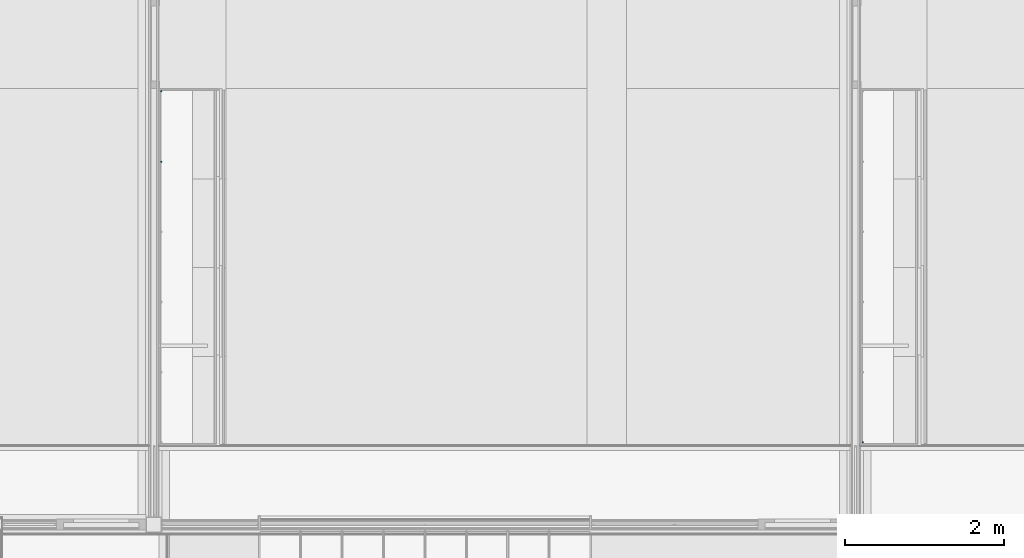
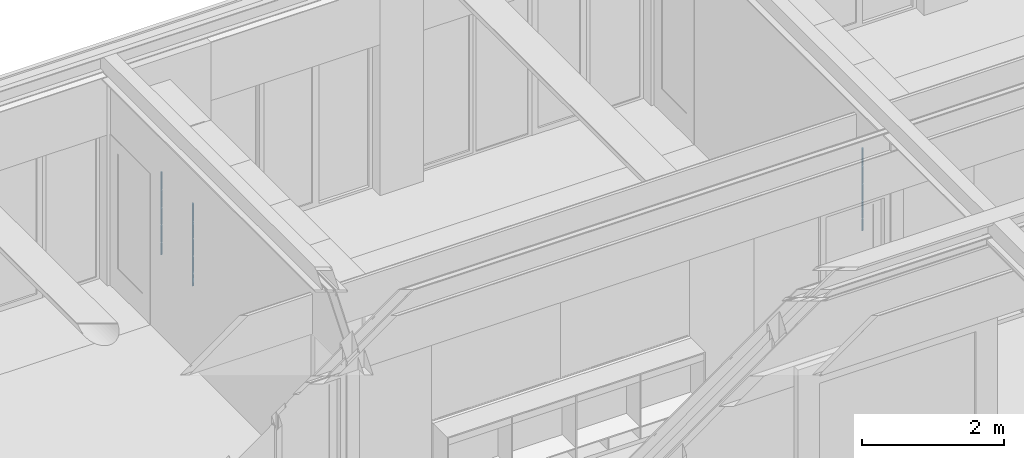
# One storey, part 5 of 165: 3 columns.
"""IFC2X3 building model written with IfcOpenShell, lengths in millimetres."""

import ifcopenshell
import ifcopenshell.guid

model = None  # the IFC model being written
_history = None  # IfcOwnerHistory: only IFC2X3 demands one
_inside = {}  # id of a spatial element -> (the spatial element, [elements in it])
_under = {}  # id of a project, library or spatial element -> (it, [spatial elements below it])
_declared = {}  # id of a project -> (the project, [libraries it declares])
_typed = {}  # id of a type object -> (the type object, [elements of that type])
_made_of = {}  # id of a material, layer set ... -> (it, [elements and type objects made of it])


def new_model(schema):
    """Start an empty IFC model of exactly this schema.

    Asked for "IFC4X3", IfcOpenShell would pick the latest addendum, in which some entities
    have other attributes; the version numbers below select the first issue.
    IFC2X3 requires an IfcOwnerHistory on every rooted entity: one is made here for all.
    """
    global model, _history
    if schema == "IFC4X3":
        model = ifcopenshell.file(schema_version=(4, 3, 0, 0))
    else:
        model = ifcopenshell.file(schema=schema)
    _inside.clear()
    _under.clear()
    _declared.clear()
    _typed.clear()
    _made_of.clear()
    _history = None
    if model.schema == "IFC2X3":
        org = make("IfcOrganization", Name="unknown")
        user = make(
            "IfcPersonAndOrganization",
            ThePerson=make("IfcPerson", FamilyName="unknown"),
            TheOrganization=org,
        )
        app = make(
            "IfcApplication",
            ApplicationDeveloper=org,
            Version="unknown",
            ApplicationFullName="unknown",
            ApplicationIdentifier="unknown",
        )
        _history = make(
            "IfcOwnerHistory",
            OwningUser=user,
            OwningApplication=app,
            ChangeAction="ADDED",
            CreationDate=0,
        )
    return model


def make(cls, **values):
    """One entity of the class cls with the attributes given. An attribute that is None is left unset."""
    return model.create_entity(
        cls, **{name: value for name, value in values.items() if value is not None}
    )


def entity(cls, *values):
    """Any entity or typed value of the class cls, its attributes in the order of the schema. None: left unset."""
    e = model.create_entity(cls)
    for i, value in enumerate(values):
        if value is not None:
            e[i] = value
    return e


def rooted(cls, **values):
    """An entity with a GlobalId (a new one), such as an element, a storey or a relation."""
    return make(cls, GlobalId=ifcopenshell.guid.new(), OwnerHistory=_history, **values)


def si_unit(unit_type, name, prefix=None):
    """IfcSIUnit, for example si_unit("LENGTHUNIT", "METRE", prefix="MILLI")."""
    return make("IfcSIUnit", UnitType=unit_type, Prefix=prefix, Name=name)


def converted_unit(unit_type, name, factor, base, dimensions=None, offset=None):
    """IfcConversionBasedUnit, such as the inch: factor (a typed value) times the base unit."""
    return make(
        "IfcConversionBasedUnit"
        if offset is None
        else "IfcConversionBasedUnitWithOffset",
        ConversionOffset=offset,
        Dimensions=None
        if dimensions is None
        else entity("IfcDimensionalExponents", *dimensions),
        UnitType=unit_type,
        Name=name,
        ConversionFactor=make(
            "IfcMeasureWithUnit", ValueComponent=factor, UnitComponent=base
        ),
    )


def derived_unit(unit_type, elements):
    """IfcDerivedUnit: a product of units, each with its exponent."""
    return make(
        "IfcDerivedUnit",
        Elements=[
            make("IfcDerivedUnitElement", Unit=unit, Exponent=power)
            for unit, power in elements
        ],
        UnitType=unit_type,
    )


def money_unit(currency):
    """IfcMonetaryUnit."""
    return make("IfcMonetaryUnit", Currency=currency)


def assignment(units):
    """IfcUnitAssignment: the units of a project."""
    return None if units is None else make("IfcUnitAssignment", Units=units)


def point(xyz):
    """IfcCartesianPoint."""
    return None if xyz is None else make("IfcCartesianPoint", Coordinates=xyz)


def direction(xyz):
    """IfcDirection."""
    return None if xyz is None else make("IfcDirection", DirectionRatios=xyz)


def frame(location, z_axis=None, x_axis=None):
    """IfcAxis2Placement3D, a coordinate frame: its origin and axes. An axis left out is left unset."""
    return make(
        "IfcAxis2Placement3D",
        Location=point(location),
        Axis=direction(z_axis),
        RefDirection=direction(x_axis),
    )


def origin_with_axes():
    """The frame at (0, 0, 0) with the z axis (0, 0, 1) and the x axis (1, 0, 0) written out."""
    return frame((0.0, 0.0, 0.0), z_axis=(0.0, 0.0, 1.0), x_axis=(1.0, 0.0, 0.0))


def place(relative_to, where):
    """IfcLocalPlacement: puts the frame where relative to a parent placement (None: the world)."""
    return make(
        "IfcLocalPlacement", PlacementRelTo=relative_to, RelativePlacement=where
    )


def context(
    kind, dimensions, precision=None, world=None, true_north=None, identifier=None
):
    """IfcGeometricRepresentationContext, for example the 3D "Model" context."""
    return make(
        "IfcGeometricRepresentationContext",
        ContextIdentifier=identifier,
        ContextType=kind,
        CoordinateSpaceDimension=dimensions,
        Precision=precision,
        WorldCoordinateSystem=world,
        TrueNorth=true_north,
    )


def subcontext(parent, identifier, kind, view, scale=None):
    """IfcGeometricRepresentationSubContext, for example "Body" below "Model"."""
    return make(
        "IfcGeometricRepresentationSubContext",
        ContextIdentifier=identifier,
        ContextType=kind,
        ParentContext=parent,
        TargetScale=scale,
        TargetView=view,
    )


def project(units=None, contexts=None):
    """IfcProject with its units and contexts."""
    return rooted(
        "IfcProject",
        Name="project",
        RepresentationContexts=contexts,
        UnitsInContext=assignment(units),
    )


def spatial(cls, under=None, at=None, **own):
    """A site, building, storey or space (cls), placed at a placement, below another one or the project."""
    s = rooted(cls, ObjectPlacement=at, **own)
    if under is not None:
        _under.setdefault(under.id(), (under, []))[1].append(s)
    return s


def faces_of(points, faces, orient=None, outer=None):
    """IfcFace entities. A face is a list of loops; a loop is a list of indices into points, from 0.

    orient and outer hold one flag for each loop. By default every Orientation is true, the
    first loop of a face is its IfcFaceOuterBound and the others are IfcFaceBound.
    """
    made = []
    for i, loops in enumerate(faces):
        bounds = []
        for j, loop in enumerate(loops):
            is_outer = j == 0 if outer is None else outer[i][j]
            bounds.append(
                make(
                    "IfcFaceOuterBound" if is_outer else "IfcFaceBound",
                    Bound=make("IfcPolyLoop", Polygon=[points[k] for k in loop]),
                    Orientation=True if orient is None else orient[i][j],
                )
            )
        made.append(make("IfcFace", Bounds=bounds))
    return made


def faceted_brep(points, faces, orient=None, outer=None, voids=None):
    """IfcFacetedBrep: a solid bounded by flat faces; with voids (closed shells), ...WithVoids."""
    shared = [point(p) for p in points]
    hull = make("IfcClosedShell", CfsFaces=faces_of(shared, faces, orient, outer))
    if voids is None:
        return make("IfcFacetedBrep", Outer=hull)
    return make(
        "IfcFacetedBrepWithVoids",
        Outer=hull,
        Voids=[
            make(cls, CfsFaces=faces_of(shared, fs, o, b)) for cls, fs, o, b in voids
        ],
    )


def shape(context_of_items, identifier, shape_type, items):
    """IfcShapeRepresentation: the items that make up one representation, for example the "Body"."""
    return make(
        "IfcShapeRepresentation",
        ContextOfItems=context_of_items,
        RepresentationIdentifier=identifier,
        RepresentationType=shape_type,
        Items=items,
    )


def material(Name=None, Category=None):
    """IfcMaterial."""
    return make("IfcMaterial", Name=Name, Category=Category)


def made_of(thing, what):
    """Note that an element or type object is made of a material, layer set ...; save() writes the relation."""
    if what is not None:
        _made_of.setdefault(what.id(), (what, []))[1].append(thing)
    return thing


def type_object(cls, material=None, **own):
    """A type object (cls), such as IfcWallType, which elements share."""
    return made_of(rooted(cls, **own), material)


def element(
    cls,
    number,
    at=None,
    inside=None,
    cuts=None,
    type_object=None,
    material=None,
    context=None,
    identifier="Body",
    shape_type=None,
    held_by="IfcProductDefinitionShape",
    body=None,
    shapes=None,
    **own,
):
    """One element of the class cls, such as IfcWall. Its Tag is "e" and its number.

    at: its placement. inside: the storey or other place that contains it. cuts: it is an
    opening in that element (IfcRelVoidsElement). A single representation is given by context,
    identifier, shape_type and body (its items); several are given by shapes. held_by: the class
    of the entity that holds the representations. save() writes the other relations.
    """
    e = rooted(cls, Tag="e%d" % number, ObjectPlacement=at, **own)
    if body is not None:
        shapes = [shape(context, identifier, shape_type, body)]
    if shapes is not None:
        e.Representation = make(held_by, Representations=shapes)
    if inside is not None:
        _inside.setdefault(inside.id(), (inside, []))[1].append(e)
    if cuts is not None:
        rooted(
            "IfcRelVoidsElement", RelatingBuildingElement=cuts, RelatedOpeningElement=e
        )
    if type_object is not None:
        _typed.setdefault(type_object.id(), (type_object, []))[1].append(e)
    return made_of(e, material)


def aggregate(whole, parts):
    """IfcRelAggregates: a whole, such as a stair, and the parts it consists of."""
    return rooted("IfcRelAggregates", RelatingObject=whole, RelatedObjects=parts)


def save(model, path):
    """Write the relations noted so far, then the file.

    IfcRelAggregates (storeys below a building ...), IfcRelContainedInSpatialStructure (elements
    in a storey), IfcRelDefinesByType, IfcRelAssociatesMaterial and IfcRelDeclares: one each for
    every whole, place, type object, material and project.
    """
    for whole, parts in _under.values():
        aggregate(whole, parts)
    for where, things in _inside.values():
        rooted(
            "IfcRelContainedInSpatialStructure",
            RelatedElements=things,
            RelatingStructure=where,
        )
    for kind, things in _typed.values():
        rooted("IfcRelDefinesByType", RelatedObjects=things, RelatingType=kind)
    for what, things in _made_of.values():
        rooted("IfcRelAssociatesMaterial", RelatedObjects=things, RelatingMaterial=what)
    for by, libraries in _declared.values():
        rooted("IfcRelDeclares", RelatingContext=by, RelatedDefinitions=libraries)
    model.write(path)


model = new_model("IFC2X3")

# Units and contexts
model_context = context("Model", 3, precision=0.01, world=origin_with_axes(), true_north=direction((0.0, 1.0)))
body_context = subcontext(model_context, "Body", "Model", "MODEL_VIEW")
ifc_project = project(units=[si_unit("LENGTHUNIT", "METRE", prefix="MILLI"), si_unit("AREAUNIT", "SQUARE_METRE"), si_unit("VOLUMEUNIT", "CUBIC_METRE"), converted_unit("PLANEANGLEUNIT", "DEGREE", entity("IfcPlaneAngleMeasure", 0.0174532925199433), si_unit("PLANEANGLEUNIT", "RADIAN"), dimensions=[0, 0, 0, 0, 0, 0, 0]), money_unit("EUR"), converted_unit("TIMEUNIT", "Year", entity("IfcTimeMeasure", 31556926.0), si_unit("TIMEUNIT", "SECOND"), dimensions=[0, 0, 1, 0, 0, 0, 0]), si_unit("MASSUNIT", "GRAM", prefix="KILO"), si_unit("THERMODYNAMICTEMPERATUREUNIT", "DEGREE_CELSIUS"), si_unit("LUMINOUSINTENSITYUNIT", "LUMEN"), si_unit("ENERGYUNIT", "JOULE", prefix="MEGA"), derived_unit("THERMALCONDUCTANCEUNIT", [(si_unit("POWERUNIT", "WATT"), 1), (si_unit("LENGTHUNIT", "METRE"), -1), (si_unit("THERMODYNAMICTEMPERATUREUNIT", "KELVIN"), -1)]), derived_unit("SPECIFICHEATCAPACITYUNIT", [(si_unit("ENERGYUNIT", "JOULE"), 1), (si_unit("MASSUNIT", "GRAM", prefix="KILO"), -1), (si_unit("THERMODYNAMICTEMPERATUREUNIT", "KELVIN"), -1)]), derived_unit("MASSDENSITYUNIT", [(si_unit("MASSUNIT", "GRAM", prefix="KILO"), 1), (si_unit("VOLUMEUNIT", "CUBIC_METRE"), -1)])], contexts=[model_context])

# Site, building, storey
site_placement = place(None, origin_with_axes())
site = spatial("IfcSite", under=ifc_project, at=site_placement, Name="Site", CompositionType="ELEMENT")
building_placement = place(site_placement, origin_with_axes())
building = spatial("IfcBuilding", under=site, at=building_placement, Name="Naam gebouw", CompositionType="ELEMENT")
storey_placement = place(building_placement, origin_with_axes())
storey = spatial("IfcBuildingStorey", under=building, at=storey_placement, Name="Begane grond", CompositionType="ELEMENT", Elevation=0.0)

# Columns
ifc_material = material(Name="ALG - ALGEMEEN")
column_type = type_object("IfcColumnType", Name="ALG - ALGEMEEN 20 x 20", PredefinedType="COLUMN")
column_1_placement = place(storey_placement, frame((17792.49942456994, 23362.99984707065, 1182.0), z_axis=(0.0, 0.0, 1.0), x_axis=(1.0, 0.0, 0.0)))
element("IfcColumn", 1, at=column_1_placement, inside=storey, type_object=column_type, material=ifc_material, Name="28_Kolom-x", ObjectType="COLUMN", context=body_context, shape_type="Brep", body=[
    faceted_brep([(-8.000000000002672, 9.99999999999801, 0.0), (-8.000000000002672, 9.99999999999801, 197.9999999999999), (9.99999999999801, 9.99999999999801, 197.9999999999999), (9.99999999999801, 9.99999999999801, 0.0), (-8.000000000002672, -10.00000000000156, 0.0), (-8.000000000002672, -10.00000000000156, 197.9999999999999), (9.99999999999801, -10.00000000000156, 197.9999999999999), (9.99999999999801, -10.00000000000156, 0.0)], [[[0, 1, 2, 3]], [[4, 5, 1, 0]], [[5, 6, 2, 1]], [[3, 2, 6, 7]], [[3, 7, 4, 0]], [[7, 6, 5, 4]]]),
    faceted_brep([(9.99999999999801, -10.00000000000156, 1418.0), (9.99999999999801, -10.00000000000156, 1118.0), (9.99999999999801, 9.99999999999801, 1118.0), (9.99999999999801, 9.99999999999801, 1418.0), (-8.000000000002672, -10.00000000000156, 1418.0), (-8.000000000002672, -10.00000000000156, 1118.0), (-8.000000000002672, 9.99999999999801, 1118.0), (-8.000000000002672, 9.99999999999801, 1418.0)], [[[0, 1, 2, 3]], [[4, 5, 1, 0]], [[5, 6, 2, 1]], [[3, 2, 6, 7]], [[0, 3, 7, 4]], [[7, 6, 5, 4]]]),
    faceted_brep([(9.99999999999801, -10.00000000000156, 1098.0), (9.99999999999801, -10.00000000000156, 818.0000000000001), (9.99999999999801, 9.99999999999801, 818.0000000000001), (9.99999999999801, 9.99999999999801, 1098.0), (-8.000000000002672, -10.00000000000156, 1098.0), (-8.000000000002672, -10.00000000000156, 818.0000000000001), (-8.000000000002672, 9.99999999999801, 818.0000000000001), (-8.000000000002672, 9.99999999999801, 1098.0)], [[[0, 1, 2, 3]], [[4, 5, 1, 0]], [[5, 6, 2, 1]], [[3, 2, 6, 7]], [[4, 0, 3, 7]], [[7, 6, 5, 4]]]),
    faceted_brep([(9.99999999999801, -10.00000000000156, 798.0), (9.99999999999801, -10.00000000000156, 518.0), (9.99999999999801, 9.99999999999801, 518.0), (9.99999999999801, 9.99999999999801, 798.0), (-8.000000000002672, -10.00000000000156, 798.0), (-8.000000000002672, -10.00000000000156, 518.0), (-8.000000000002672, 9.99999999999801, 518.0), (-8.000000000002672, 9.99999999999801, 798.0)], [[[0, 1, 2, 3]], [[4, 5, 1, 0]], [[5, 6, 2, 1]], [[3, 2, 6, 7]], [[4, 0, 3, 7]], [[7, 6, 5, 4]]]),
    faceted_brep([(9.99999999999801, -10.00000000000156, 498.0), (9.99999999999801, -10.00000000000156, 218.0), (9.99999999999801, 9.99999999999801, 218.0), (9.99999999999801, 9.99999999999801, 498.0), (-8.000000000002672, -10.00000000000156, 498.0), (-8.000000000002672, -10.00000000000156, 218.0), (-8.000000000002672, 9.99999999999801, 218.0), (-8.000000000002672, 9.99999999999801, 498.0)], [[[0, 1, 2, 3]], [[4, 5, 1, 0]], [[5, 6, 2, 1]], [[3, 2, 6, 7]], [[4, 0, 3, 7]], [[7, 6, 5, 4]]]),
])
column_2_placement = place(storey_placement, frame((8942.500000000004, 27792.99984707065, 1182.0), z_axis=(0.0, 0.0, 1.0), x_axis=(1.0, 0.0, 0.0)))
element("IfcColumn", 2, at=column_2_placement, inside=storey, type_object=column_type, material=ifc_material, Name="28_Kolom-x", ObjectType="COLUMN", context=body_context, shape_type="Brep", body=[
    faceted_brep([(-8.000000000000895, 9.99999999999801, 0.0), (-8.000000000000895, 9.99999999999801, 197.9999999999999), (9.999999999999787, 9.99999999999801, 197.9999999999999), (9.999999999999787, 9.99999999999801, 0.0), (-8.000000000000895, -10.00000000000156, 0.0), (-8.000000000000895, -10.00000000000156, 197.9999999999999), (9.999999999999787, -10.00000000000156, 197.9999999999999), (9.999999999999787, -10.00000000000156, 0.0)], [[[0, 1, 2, 3]], [[4, 5, 1, 0]], [[5, 6, 2, 1]], [[3, 2, 6, 7]], [[3, 7, 4, 0]], [[7, 6, 5, 4]]]),
    faceted_brep([(9.999999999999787, -10.00000000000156, 1418.0), (9.999999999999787, -10.00000000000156, 1118.0), (9.999999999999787, 9.99999999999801, 1118.0), (9.999999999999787, 9.99999999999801, 1418.0), (-8.000000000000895, -10.00000000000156, 1418.0), (-8.000000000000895, -10.00000000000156, 1118.0), (-8.000000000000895, 9.99999999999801, 1118.0), (-8.000000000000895, 9.99999999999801, 1418.0)], [[[0, 1, 2, 3]], [[4, 5, 1, 0]], [[5, 6, 2, 1]], [[3, 2, 6, 7]], [[0, 3, 7, 4]], [[7, 6, 5, 4]]]),
    faceted_brep([(9.999999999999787, -10.00000000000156, 1098.0), (9.999999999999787, -10.00000000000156, 818.0000000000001), (9.999999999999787, 9.99999999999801, 818.0000000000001), (9.999999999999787, 9.99999999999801, 1098.0), (-8.000000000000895, -10.00000000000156, 1098.0), (-8.000000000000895, -10.00000000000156, 818.0000000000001), (-8.000000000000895, 9.99999999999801, 818.0000000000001), (-8.000000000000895, 9.99999999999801, 1098.0)], [[[0, 1, 2, 3]], [[4, 5, 1, 0]], [[5, 6, 2, 1]], [[3, 2, 6, 7]], [[4, 0, 3, 7]], [[7, 6, 5, 4]]]),
    faceted_brep([(9.999999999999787, -10.00000000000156, 798.0), (9.999999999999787, -10.00000000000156, 518.0), (9.999999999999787, 9.99999999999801, 518.0), (9.999999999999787, 9.99999999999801, 798.0), (-8.000000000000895, -10.00000000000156, 798.0), (-8.000000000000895, -10.00000000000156, 518.0), (-8.000000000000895, 9.99999999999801, 518.0), (-8.000000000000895, 9.99999999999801, 798.0)], [[[0, 1, 2, 3]], [[4, 5, 1, 0]], [[5, 6, 2, 1]], [[3, 2, 6, 7]], [[4, 0, 3, 7]], [[7, 6, 5, 4]]]),
    faceted_brep([(9.999999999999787, -10.00000000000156, 498.0), (9.999999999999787, -10.00000000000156, 218.0), (9.999999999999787, 9.99999999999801, 218.0), (9.999999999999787, 9.99999999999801, 498.0), (-8.000000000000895, -10.00000000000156, 498.0), (-8.000000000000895, -10.00000000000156, 218.0), (-8.000000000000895, 9.99999999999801, 218.0), (-8.000000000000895, 9.99999999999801, 498.0)], [[[0, 1, 2, 3]], [[4, 5, 1, 0]], [[5, 6, 2, 1]], [[3, 2, 6, 7]], [[4, 0, 3, 7]], [[7, 6, 5, 4]]]),
])
column_3_placement = place(storey_placement, frame((8942.500000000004, 26906.99984707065, 1182.0), z_axis=(0.0, 0.0, 1.0), x_axis=(1.0, 0.0, 0.0)))
element("IfcColumn", 3, at=column_3_placement, inside=storey, type_object=column_type, material=ifc_material, Name="28_Kolom-x", ObjectType="COLUMN", context=body_context, shape_type="Brep", body=[
    faceted_brep([(-8.000000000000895, 9.99999999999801, 0.0), (-8.000000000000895, 9.99999999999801, 197.9999999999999), (9.999999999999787, 9.99999999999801, 197.9999999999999), (9.999999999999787, 9.99999999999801, 0.0), (-8.000000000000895, -10.00000000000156, 0.0), (-8.000000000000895, -10.00000000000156, 197.9999999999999), (9.999999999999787, -10.00000000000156, 197.9999999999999), (9.999999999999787, -10.00000000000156, 0.0)], [[[0, 1, 2, 3]], [[4, 5, 1, 0]], [[5, 6, 2, 1]], [[3, 2, 6, 7]], [[3, 7, 4, 0]], [[7, 6, 5, 4]]]),
    faceted_brep([(9.999999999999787, -10.00000000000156, 1418.0), (9.999999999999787, -10.00000000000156, 1118.0), (9.999999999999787, 9.99999999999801, 1118.0), (9.999999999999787, 9.99999999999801, 1418.0), (-8.000000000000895, -10.00000000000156, 1418.0), (-8.000000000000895, -10.00000000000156, 1118.0), (-8.000000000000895, 9.99999999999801, 1118.0), (-8.000000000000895, 9.99999999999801, 1418.0)], [[[0, 1, 2, 3]], [[4, 5, 1, 0]], [[5, 6, 2, 1]], [[3, 2, 6, 7]], [[0, 3, 7, 4]], [[7, 6, 5, 4]]]),
    faceted_brep([(9.999999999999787, -10.00000000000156, 1098.0), (9.999999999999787, -10.00000000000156, 818.0000000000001), (9.999999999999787, 9.99999999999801, 818.0000000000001), (9.999999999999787, 9.99999999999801, 1098.0), (-8.000000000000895, -10.00000000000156, 1098.0), (-8.000000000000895, -10.00000000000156, 818.0000000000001), (-8.000000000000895, 9.99999999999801, 818.0000000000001), (-8.000000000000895, 9.99999999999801, 1098.0)], [[[0, 1, 2, 3]], [[4, 5, 1, 0]], [[5, 6, 2, 1]], [[3, 2, 6, 7]], [[4, 0, 3, 7]], [[7, 6, 5, 4]]]),
    faceted_brep([(9.999999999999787, -10.00000000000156, 798.0), (9.999999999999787, -10.00000000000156, 518.0), (9.999999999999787, 9.99999999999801, 518.0), (9.999999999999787, 9.99999999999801, 798.0), (-8.000000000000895, -10.00000000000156, 798.0), (-8.000000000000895, -10.00000000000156, 518.0), (-8.000000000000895, 9.99999999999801, 518.0), (-8.000000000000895, 9.99999999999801, 798.0)], [[[0, 1, 2, 3]], [[4, 5, 1, 0]], [[5, 6, 2, 1]], [[3, 2, 6, 7]], [[4, 0, 3, 7]], [[7, 6, 5, 4]]]),
    faceted_brep([(9.999999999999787, -10.00000000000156, 498.0), (9.999999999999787, -10.00000000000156, 218.0), (9.999999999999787, 9.99999999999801, 218.0), (9.999999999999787, 9.99999999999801, 498.0), (-8.000000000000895, -10.00000000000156, 498.0), (-8.000000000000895, -10.00000000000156, 218.0), (-8.000000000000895, 9.99999999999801, 218.0), (-8.000000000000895, 9.99999999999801, 498.0)], [[[0, 1, 2, 3]], [[4, 5, 1, 0]], [[5, 6, 2, 1]], [[3, 2, 6, 7]], [[4, 0, 3, 7]], [[7, 6, 5, 4]]]),
])

save(model, "model.ifc")
